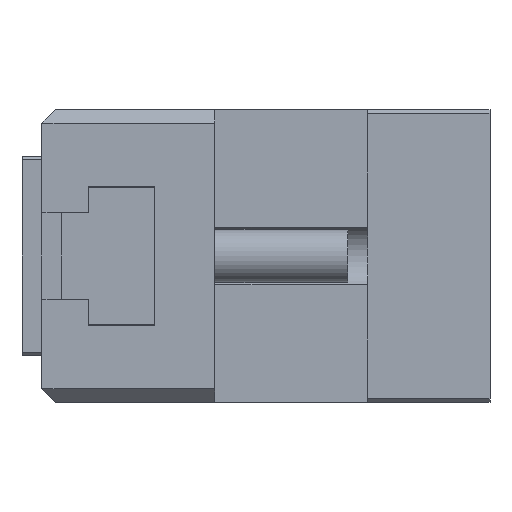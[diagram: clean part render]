
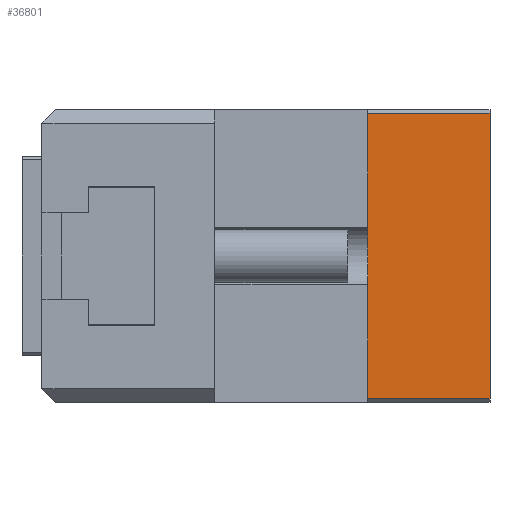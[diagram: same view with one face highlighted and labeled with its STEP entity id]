
A CAD part, left-side view. The second image highlights one B-rep face of the part: STEP entity #36801.
In plain terms, the highlighted planar face has unit normal (-1, 0, 0).
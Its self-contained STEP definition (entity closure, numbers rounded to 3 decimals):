
#1266 = CARTESIAN_POINT ( 'NONE',  ( -22.5, 23.4, -21.5 ) ) ;
#2067 = EDGE_CURVE ( 'NONE', #44988, #49527, #17018, .T. ) ;
#2557 = VERTEX_POINT ( 'NONE', #23077 ) ;
#2967 = CARTESIAN_POINT ( 'NONE',  ( -22.5, 23.4, 21.5 ) ) ;
#3334 = DIRECTION ( 'NONE',  ( 0., 0., -1. ) ) ;
#3390 = DIRECTION ( 'NONE',  ( 0., -1., 0. ) ) ;
#3756 = VECTOR ( 'NONE', #3390, 1000. ) ;
#4660 = LINE ( 'NONE', #12930, #46874 ) ;
#7431 = EDGE_CURVE ( 'NONE', #25952, #2557, #42157, .T. ) ;
#12376 = PLANE ( 'NONE',  #34168 ) ;
#12530 = DIRECTION ( 'NONE',  ( 1., 0., 0. ) ) ;
#12930 = CARTESIAN_POINT ( 'NONE',  ( -22.5, 23.4, -21.5 ) ) ;
#14090 = LINE ( 'NONE', #22698, #3756 ) ;
#14821 = FACE_OUTER_BOUND ( 'NONE', #25138, .T. ) ;
#14871 = EDGE_CURVE ( 'NONE', #2557, #44988, #14090, .T. ) ;
#15514 = CARTESIAN_POINT ( 'NONE',  ( -22.5, 0., -21.5 ) ) ;
#17018 = LINE ( 'NONE', #22645, #27300 ) ;
#21140 = EDGE_CURVE ( 'NONE', #49527, #25952, #4660, .T. ) ;
#22645 = CARTESIAN_POINT ( 'NONE',  ( -22.5, 0., -44. ) ) ;
#22698 = CARTESIAN_POINT ( 'NONE',  ( -22.5, 23.4, 21.5 ) ) ;
#23077 = CARTESIAN_POINT ( 'NONE',  ( -22.5, 23.4, 21.5 ) ) ;
#25138 = EDGE_LOOP ( 'NONE', ( #34910, #48077, #35486, #38468 ) ) ;
#25952 = VERTEX_POINT ( 'NONE', #1266 ) ;
#27300 = VECTOR ( 'NONE', #3334, 1000. ) ;
#33892 = DIRECTION ( 'NONE',  ( 0., 0., 1. ) ) ;
#34168 = AXIS2_PLACEMENT_3D ( 'NONE', #35629, #12530, #39481 ) ;
#34910 = ORIENTED_EDGE ( 'NONE', *, *, #14871, .F. ) ;
#35486 = ORIENTED_EDGE ( 'NONE', *, *, #21140, .F. ) ;
#35629 = CARTESIAN_POINT ( 'NONE',  ( -22.5, 23.4, 21.5 ) ) ;
#36801 = ADVANCED_FACE ( 'NONE', ( #14821 ), #12376, .F. ) ;
#38468 = ORIENTED_EDGE ( 'NONE', *, *, #2067, .F. ) ;
#39481 = DIRECTION ( 'NONE',  ( 0., 0., -1. ) ) ;
#39871 = DIRECTION ( 'NONE',  ( 0., 1., 0. ) ) ;
#40937 = VECTOR ( 'NONE', #33892, 1000. ) ;
#42157 = LINE ( 'NONE', #2967, #40937 ) ;
#44988 = VERTEX_POINT ( 'NONE', #48238 ) ;
#46874 = VECTOR ( 'NONE', #39871, 1000. ) ;
#48077 = ORIENTED_EDGE ( 'NONE', *, *, #7431, .F. ) ;
#48238 = CARTESIAN_POINT ( 'NONE',  ( -22.5, 0., 21.5 ) ) ;
#49527 = VERTEX_POINT ( 'NONE', #15514 ) ;
